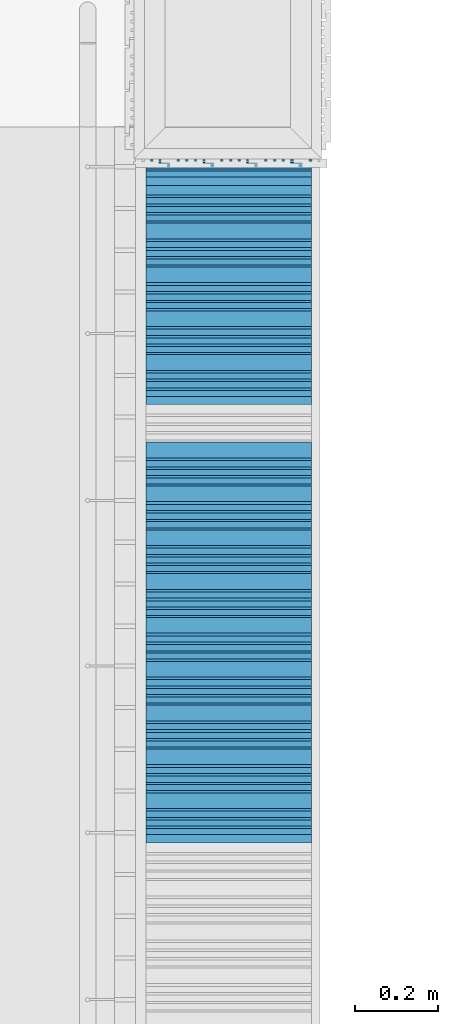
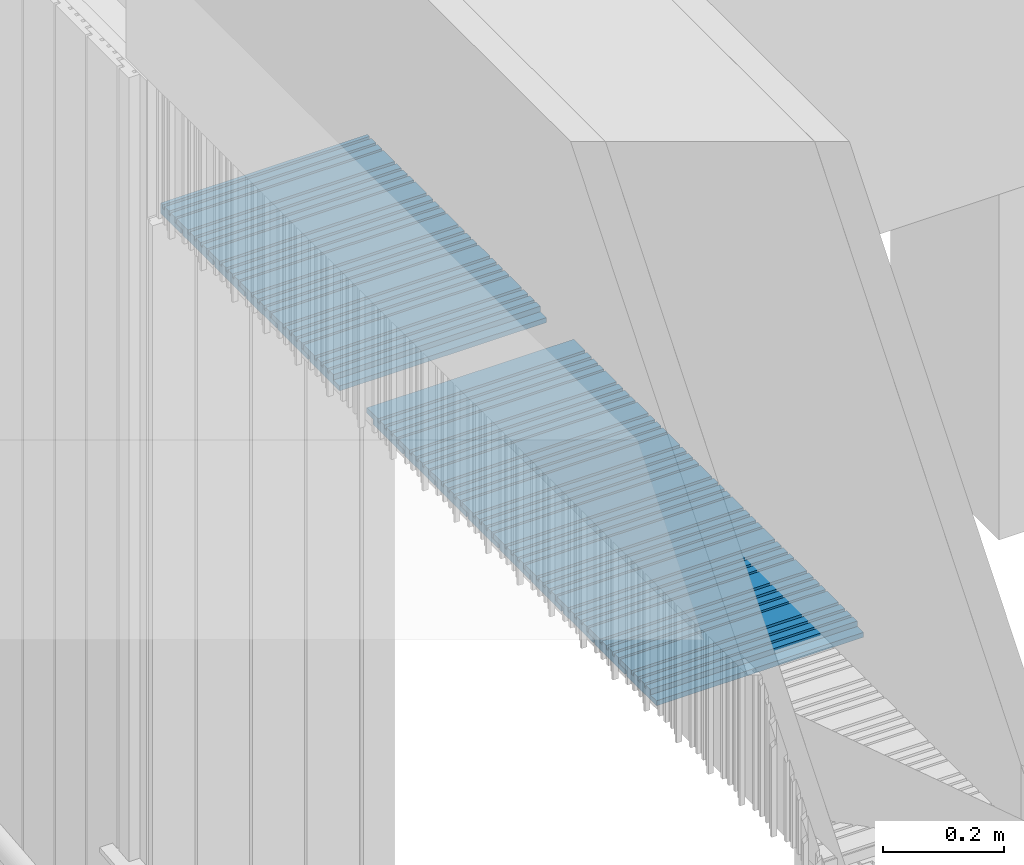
# One storey, part 59 of 418: 15 building element parts, 1 element without a shape of its own.
"""IFC2X3 building model written with IfcOpenShell, lengths in millimetres."""

from ifc_helpers import new_model, entity, si_unit, converted_unit, derived_unit, money_unit, direction, frame, origin_with_axes, place, context, subcontext, project, spatial, polyline, outline, extrude, material, type_object, element, aggregate, save


model = new_model("IFC2X3")

# Units and contexts
model_context = context("Model", 3, precision=0.01, world=origin_with_axes(), true_north=direction((0.0, 1.0)))
body_context = subcontext(model_context, "Body", "Model", "MODEL_VIEW")
ifc_project = project(units=[si_unit("LENGTHUNIT", "METRE", prefix="MILLI"), si_unit("AREAUNIT", "SQUARE_METRE"), si_unit("VOLUMEUNIT", "CUBIC_METRE"), converted_unit("PLANEANGLEUNIT", "DEGREE", entity("IfcPlaneAngleMeasure", 0.0174532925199), si_unit("PLANEANGLEUNIT", "RADIAN"), dimensions=[0, 0, 0, 0, 0, 0, 0]), si_unit("SOLIDANGLEUNIT", "STERADIAN"), money_unit("EUR"), converted_unit("TIMEUNIT", "Year", entity("IfcTimeMeasure", 31556926.0), si_unit("TIMEUNIT", "SECOND"), dimensions=[0, 0, 1, 0, 0, 0, 0]), si_unit("MASSUNIT", "GRAM", prefix="KILO"), si_unit("THERMODYNAMICTEMPERATUREUNIT", "DEGREE_CELSIUS"), si_unit("LUMINOUSINTENSITYUNIT", "LUMEN"), si_unit("ENERGYUNIT", "JOULE", prefix="MEGA"), derived_unit("THERMALCONDUCTANCEUNIT", [(si_unit("POWERUNIT", "WATT"), 1), (si_unit("LENGTHUNIT", "METRE"), -1), (si_unit("THERMODYNAMICTEMPERATUREUNIT", "KELVIN"), -1)]), derived_unit("SPECIFICHEATCAPACITYUNIT", [(si_unit("ENERGYUNIT", "JOULE"), 1), (si_unit("MASSUNIT", "GRAM", prefix="KILO"), -1), (si_unit("THERMODYNAMICTEMPERATUREUNIT", "KELVIN"), -1)]), derived_unit("MASSDENSITYUNIT", [(si_unit("MASSUNIT", "GRAM", prefix="KILO"), 1), (si_unit("VOLUMEUNIT", "CUBIC_METRE"), -1)])], contexts=[model_context])

# Site, building, storey
site_placement = place(None, origin_with_axes())
site = spatial("IfcSite", under=ifc_project, at=site_placement, Name="Paldiski mnt 245/1, Tallinn, Harjumaa", CompositionType="COMPLEX")
building_placement = place(site_placement, origin_with_axes())
building = spatial("IfcBuilding", under=site, at=building_placement, Name="RKAS Hoone üldnimetus (kasutust iseloomustav) -> IFC Project Manager -> SOLIBRI", CompositionType="ELEMENT")
storey_placement = place(building_placement, origin_with_axes())
storey = spatial("IfcBuildingStorey", under=building, at=storey_placement, Name="Esimene korrus", CompositionType="ELEMENT", Elevation=0.0)

# Proxy, building element parts
building_element_proxy_type = type_object("IfcBuildingElementProxyType", Name="Laudis ava ülemine serv_01 2200 x 21", PredefinedType="NOTDEFINED")
proxy_placement = place(storey_placement, frame((-38766.0, -15302.0843015, 2280.0), z_axis=(0.0, 0.0, 1.0), x_axis=(1.0, 0.0, 0.0)))
proxy = element("IfcBuildingElementProxy", 1, at=proxy_placement, inside=storey, type_object=building_element_proxy_type, Name="Varikatus")
ifc_material = material(Name="Laudis 5072 Honka 45 horisontaalne")
building_element_part_1_placement = place(proxy_placement, origin_with_axes())
building_element_part_1 = element("IfcBuildingElementPart", 2, at=building_element_part_1_placement, material=ifc_material, Name="Laudis 5072 Honka 45 horisontaalne", context=body_context, shape_type="SweptSolid", body=[
    extrude(outline(polyline([(73.1789257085, 0.0), (173.178925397, 0.0), (173.178925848, 9.99999952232), (153.178926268, 10.0000004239), (153.178925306, 21.0000001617), (138.602738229, 21.0000005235), (138.602737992, 14.000001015), (132.96206958, 14.0000003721), (132.962068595, 21.0000008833), (118.133576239, 20.9999999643), (118.133576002, 14.0000004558), (112.006635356, 14.0000000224), (112.006635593, 20.9999995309), (97.0675184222, 20.9999996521), (97.0675181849, 14.0000001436), (90.7050211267, 14.0000004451), (90.7050201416, 21.0000009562), (53.1789256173, 20.9999999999), (53.1789252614, 10.5000007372), (73.1789258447, 10.5000010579), (73.1789257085, 0.0)])), frame((0.0, 0.0, 0.0), z_axis=(-1.0, 0.0, 0.0), x_axis=(0.0, -1.0, 0.0)), (0.0, 0.0, -1.0), 396.0),
])
building_element_part_2_placement = place(proxy_placement, origin_with_axes())
building_element_part_2 = element("IfcBuildingElementPart", 3, at=building_element_part_2_placement, material=ifc_material, Name="Laudis 5072 Honka 45 horisontaalne", context=body_context, shape_type="SweptSolid", body=[
    extrude(outline(polyline([(0.0, 0.0), (68.1789252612, 0.0), (68.178925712, 9.99999952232), (48.1789261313, 10.0000004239), (48.17892517, 21.0000001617), (33.6027380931, 21.0000005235), (33.6027378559, 14.000001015), (27.9620694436, 14.0000003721), (27.9620684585, 21.0000008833), (13.1335761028, 20.9999999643), (13.1335758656, 14.0000004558), (7.00663521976, 14.0000000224), (7.006635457, 20.9999995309), (0.0, 20.9999995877), (0.0, 0.0)])), frame((0.0, 0.0, 0.0), z_axis=(-1.0, 0.0, 0.0), x_axis=(0.0, -1.0, 0.0)), (0.0, 0.0, -1.0), 396.0),
])
building_element_part_3_placement = place(proxy_placement, origin_with_axes())
building_element_part_3 = element("IfcBuildingElementPart", 4, at=building_element_part_3_placement, material=ifc_material, Name="Laudis 5072 Honka 45 horisontaalne", context=body_context, shape_type="SweptSolid", body=[
    extrude(outline(polyline([(178.178925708, 0.0), (278.178925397, 0.0), (278.178925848, 9.99999952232), (258.178926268, 10.0000004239), (258.178925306, 21.0000001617), (243.602738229, 21.0000005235), (243.602737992, 14.000001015), (237.96206958, 14.0000003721), (237.962068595, 21.0000008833), (223.133576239, 20.9999999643), (223.133576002, 14.0000004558), (217.006635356, 14.0000000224), (217.006635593, 20.9999995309), (202.067518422, 20.9999996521), (202.067518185, 14.0000001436), (195.705021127, 14.0000004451), (195.705020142, 21.0000009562), (158.178925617, 20.9999999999), (158.178925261, 10.5000007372), (178.178925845, 10.5000010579), (178.178925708, 0.0)])), frame((0.0, 0.0, 0.0), z_axis=(-1.0, 0.0, 0.0), x_axis=(0.0, -1.0, 0.0)), (0.0, 0.0, -1.0), 396.0),
])
building_element_part_4_placement = place(proxy_placement, origin_with_axes())
building_element_part_4 = element("IfcBuildingElementPart", 5, at=building_element_part_4_placement, material=ifc_material, Name="Laudis 5072 Honka 45 horisontaalne", context=body_context, shape_type="SweptSolid", body=[
    extrude(outline(polyline([(283.178925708, 0.0), (383.178925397, 0.0), (383.178925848, 9.99999952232), (363.178926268, 10.0000004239), (363.178925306, 21.0000001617), (348.602738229, 21.0000005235), (348.602737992, 14.000001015), (342.96206958, 14.0000003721), (342.962068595, 21.0000008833), (328.133576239, 20.9999999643), (328.133576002, 14.0000004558), (322.006635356, 14.0000000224), (322.006635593, 20.9999995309), (307.067518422, 20.9999996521), (307.067518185, 14.0000001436), (300.705021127, 14.0000004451), (300.705020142, 21.0000009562), (263.178925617, 20.9999999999), (263.178925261, 10.5000007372), (283.178925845, 10.5000010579), (283.178925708, 0.0)])), frame((0.0, 0.0, 0.0), z_axis=(-1.0, 0.0, 0.0), x_axis=(0.0, -1.0, 0.0)), (0.0, 0.0, -1.0), 396.0),
])
building_element_part_5_placement = place(proxy_placement, origin_with_axes())
building_element_part_5 = element("IfcBuildingElementPart", 6, at=building_element_part_5_placement, material=ifc_material, Name="Laudis 5072 Honka 45 horisontaalne", context=body_context, shape_type="SweptSolid", body=[
    extrude(outline(polyline([(388.178925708, 0.0), (488.178925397, 0.0), (488.178925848, 9.99999952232), (468.178926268, 10.0000004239), (468.178925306, 21.0000001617), (453.602738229, 21.0000005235), (453.602737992, 14.000001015), (447.96206958, 14.0000003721), (447.962068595, 21.0000008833), (433.133576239, 20.9999999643), (433.133576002, 14.0000004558), (427.006635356, 14.0000000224), (427.006635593, 20.9999995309), (412.067518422, 20.9999996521), (412.067518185, 14.0000001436), (405.705021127, 14.0000004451), (405.705020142, 21.0000009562), (368.178925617, 20.9999999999), (368.178925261, 10.5000007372), (388.178925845, 10.5000010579), (388.178925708, 0.0)])), frame((0.0, 0.0, 0.0), z_axis=(-1.0, 0.0, 0.0), x_axis=(0.0, -1.0, 0.0)), (0.0, 0.0, -1.0), 396.0),
])
building_element_part_6_placement = place(proxy_placement, origin_with_axes())
building_element_part_6 = element("IfcBuildingElementPart", 7, at=building_element_part_6_placement, material=ifc_material, Name="Laudis 5072 Honka 45 horisontaalne", context=body_context, shape_type="SweptSolid", body=[
    extrude(outline(polyline([(493.178925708, 0.0), (593.178925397, 0.0), (593.178925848, 9.99999952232), (573.178926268, 10.0000004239), (573.178925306, 21.0000001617), (558.602738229, 21.0000005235), (558.602737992, 14.000001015), (552.96206958, 14.0000003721), (552.962068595, 21.0000008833), (538.133576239, 20.9999999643), (538.133576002, 14.0000004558), (532.006635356, 14.0000000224), (532.006635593, 20.9999995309), (517.067518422, 20.9999996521), (517.067518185, 14.0000001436), (510.705021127, 14.0000004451), (510.705020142, 21.0000009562), (473.178925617, 20.9999999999), (473.178925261, 10.5000007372), (493.178925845, 10.5000010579), (493.178925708, 0.0)])), frame((0.0, 0.0, 0.0), z_axis=(-1.0, 0.0, 0.0), x_axis=(0.0, -1.0, 0.0)), (0.0, 0.0, -1.0), 396.0),
])
building_element_part_7_placement = place(proxy_placement, origin_with_axes())
building_element_part_7 = element("IfcBuildingElementPart", 8, at=building_element_part_7_placement, material=ifc_material, Name="Laudis 5072 Honka 45 horisontaalne", context=body_context, shape_type="SweptSolid", body=[
    extrude(outline(polyline([(703.178925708, 0.0), (803.178925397, 0.0), (803.178925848, 9.99999952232), (783.178926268, 10.0000004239), (783.178925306, 21.0000001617), (768.602738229, 21.0000005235), (768.602737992, 14.000001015), (762.96206958, 14.0000003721), (762.962068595, 21.0000008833), (748.133576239, 20.9999999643), (748.133576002, 14.0000004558), (742.006635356, 14.0000000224), (742.006635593, 20.9999995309), (727.067518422, 20.9999996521), (727.067518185, 14.0000001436), (720.705021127, 14.0000004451), (720.705020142, 21.0000009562), (683.178925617, 20.9999999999), (683.178925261, 10.5000007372), (703.178925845, 10.5000010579), (703.178925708, 0.0)])), frame((0.0, 0.0, 0.0), z_axis=(-1.0, 0.0, 0.0), x_axis=(0.0, -1.0, 0.0)), (0.0, 0.0, -1.0), 396.0),
])
building_element_part_8_placement = place(proxy_placement, origin_with_axes())
building_element_part_8 = element("IfcBuildingElementPart", 9, at=building_element_part_8_placement, material=ifc_material, Name="Laudis 5072 Honka 45 horisontaalne", context=body_context, shape_type="SweptSolid", body=[
    extrude(outline(polyline([(808.178925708, 0.0), (908.178925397, 0.0), (908.178925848, 9.99999952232), (888.178926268, 10.0000004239), (888.178925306, 21.0000001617), (873.602738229, 21.0000005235), (873.602737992, 14.000001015), (867.96206958, 14.0000003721), (867.962068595, 21.0000008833), (853.133576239, 20.9999999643), (853.133576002, 14.0000004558), (847.006635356, 14.0000000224), (847.006635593, 20.9999995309), (832.067518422, 20.9999996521), (832.067518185, 14.0000001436), (825.705021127, 14.0000004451), (825.705020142, 21.0000009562), (788.178925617, 20.9999999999), (788.178925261, 10.5000007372), (808.178925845, 10.5000010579), (808.178925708, 0.0)])), frame((0.0, 0.0, 0.0), z_axis=(-1.0, 0.0, 0.0), x_axis=(0.0, -1.0, 0.0)), (0.0, 0.0, -1.0), 396.0),
])
building_element_part_9_placement = place(proxy_placement, origin_with_axes())
building_element_part_9 = element("IfcBuildingElementPart", 10, at=building_element_part_9_placement, material=ifc_material, Name="Laudis 5072 Honka 45 horisontaalne", context=body_context, shape_type="SweptSolid", body=[
    extrude(outline(polyline([(913.178925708, 0.0), (1013.1789254, 0.0), (1013.17892585, 9.99999952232), (993.178926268, 10.0000004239), (993.178925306, 21.0000001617), (978.602738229, 21.0000005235), (978.602737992, 14.000001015), (972.96206958, 14.0000003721), (972.962068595, 21.0000008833), (958.133576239, 20.9999999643), (958.133576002, 14.0000004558), (952.006635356, 14.0000000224), (952.006635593, 20.9999995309), (937.067518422, 20.9999996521), (937.067518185, 14.0000001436), (930.705021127, 14.0000004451), (930.705020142, 21.0000009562), (893.178925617, 20.9999999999), (893.178925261, 10.5000007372), (913.178925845, 10.5000010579), (913.178925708, 0.0)])), frame((0.0, 0.0, 0.0), z_axis=(-1.0, 0.0, 0.0), x_axis=(0.0, -1.0, 0.0)), (0.0, 0.0, -1.0), 396.0),
])
building_element_part_10_placement = place(proxy_placement, origin_with_axes())
building_element_part_10 = element("IfcBuildingElementPart", 11, at=building_element_part_10_placement, material=ifc_material, Name="Laudis 5072 Honka 45 horisontaalne", context=body_context, shape_type="SweptSolid", body=[
    extrude(outline(polyline([(1018.17892571, 0.0), (1118.1789254, 0.0), (1118.17892585, 9.99999952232), (1098.17892627, 10.0000004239), (1098.17892531, 21.0000001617), (1083.60273823, 21.0000005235), (1083.60273799, 14.000001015), (1077.96206958, 14.0000003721), (1077.96206859, 21.0000008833), (1063.13357624, 20.9999999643), (1063.133576, 14.0000004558), (1057.00663536, 14.0000000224), (1057.00663559, 20.9999995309), (1042.06751842, 20.9999996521), (1042.06751818, 14.0000001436), (1035.70502113, 14.0000004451), (1035.70502014, 21.0000009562), (998.178925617, 20.9999999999), (998.178925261, 10.5000007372), (1018.17892584, 10.5000010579), (1018.17892571, 0.0)])), frame((0.0, 0.0, 0.0), z_axis=(-1.0, 0.0, 0.0), x_axis=(0.0, -1.0, 0.0)), (0.0, 0.0, -1.0), 396.0),
])
building_element_part_11_placement = place(proxy_placement, origin_with_axes())
building_element_part_11 = element("IfcBuildingElementPart", 12, at=building_element_part_11_placement, material=ifc_material, Name="Laudis 5072 Honka 45 horisontaalne", context=body_context, shape_type="SweptSolid", body=[
    extrude(outline(polyline([(1123.17892571, 0.0), (1223.1789254, 0.0), (1223.17892585, 9.99999952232), (1203.17892627, 10.0000004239), (1203.17892531, 21.0000001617), (1188.60273823, 21.0000005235), (1188.60273799, 14.000001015), (1182.96206958, 14.0000003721), (1182.96206859, 21.0000008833), (1168.13357624, 20.9999999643), (1168.133576, 14.0000004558), (1162.00663536, 14.0000000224), (1162.00663559, 20.9999995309), (1147.06751842, 20.9999996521), (1147.06751818, 14.0000001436), (1140.70502113, 14.0000004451), (1140.70502014, 21.0000009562), (1103.17892562, 20.9999999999), (1103.17892526, 10.5000007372), (1123.17892584, 10.5000010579), (1123.17892571, 0.0)])), frame((0.0, 0.0, 0.0), z_axis=(-1.0, 0.0, 0.0), x_axis=(0.0, -1.0, 0.0)), (0.0, 0.0, -1.0), 396.0),
])
building_element_part_12_placement = place(proxy_placement, origin_with_axes())
building_element_part_12 = element("IfcBuildingElementPart", 13, at=building_element_part_12_placement, material=ifc_material, Name="Laudis 5072 Honka 45 horisontaalne", context=body_context, shape_type="SweptSolid", body=[
    extrude(outline(polyline([(1228.17892571, 0.0), (1328.1789254, 0.0), (1328.17892585, 9.99999952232), (1308.17892627, 10.0000004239), (1308.17892531, 21.0000001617), (1293.60273823, 21.0000005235), (1293.60273799, 14.000001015), (1287.96206958, 14.0000003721), (1287.96206859, 21.0000008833), (1273.13357624, 20.9999999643), (1273.133576, 14.0000004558), (1267.00663536, 14.0000000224), (1267.00663559, 20.9999995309), (1252.06751842, 20.9999996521), (1252.06751818, 14.0000001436), (1245.70502113, 14.0000004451), (1245.70502014, 21.0000009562), (1208.17892562, 20.9999999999), (1208.17892526, 10.5000007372), (1228.17892584, 10.5000010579), (1228.17892571, 0.0)])), frame((0.0, 0.0, 0.0), z_axis=(-1.0, 0.0, 0.0), x_axis=(0.0, -1.0, 0.0)), (0.0, 0.0, -1.0), 396.0),
])
building_element_part_13_placement = place(proxy_placement, origin_with_axes())
building_element_part_13 = element("IfcBuildingElementPart", 14, at=building_element_part_13_placement, material=ifc_material, Name="Laudis 5072 Honka 45 horisontaalne", context=body_context, shape_type="SweptSolid", body=[
    extrude(outline(polyline([(1333.17892571, 0.0), (1433.1789254, 0.0), (1433.17892585, 9.99999952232), (1413.17892627, 10.0000004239), (1413.17892531, 21.0000001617), (1398.60273823, 21.0000005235), (1398.60273799, 14.000001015), (1392.96206958, 14.0000003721), (1392.96206859, 21.0000008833), (1378.13357624, 20.9999999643), (1378.133576, 14.0000004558), (1372.00663536, 14.0000000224), (1372.00663559, 20.9999995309), (1357.06751842, 20.9999996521), (1357.06751818, 14.0000001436), (1350.70502113, 14.0000004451), (1350.70502014, 21.0000009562), (1313.17892562, 20.9999999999), (1313.17892526, 10.5000007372), (1333.17892584, 10.5000010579), (1333.17892571, 0.0)])), frame((0.0, 0.0, 0.0), z_axis=(-1.0, 0.0, 0.0), x_axis=(0.0, -1.0, 0.0)), (0.0, 0.0, -1.0), 396.0),
])
building_element_part_14_placement = place(proxy_placement, origin_with_axes())
building_element_part_14 = element("IfcBuildingElementPart", 15, at=building_element_part_14_placement, material=ifc_material, Name="Laudis 5072 Honka 45 horisontaalne", context=body_context, shape_type="SweptSolid", body=[
    extrude(outline(polyline([(1438.17892571, 0.0), (1538.1789254, 0.0), (1538.17892585, 9.99999952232), (1518.17892627, 10.0000004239), (1518.17892531, 21.0000001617), (1503.60273823, 21.0000005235), (1503.60273799, 14.000001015), (1497.96206958, 14.0000003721), (1497.96206859, 21.0000008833), (1483.13357624, 20.9999999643), (1483.133576, 14.0000004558), (1477.00663536, 14.0000000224), (1477.00663559, 20.9999995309), (1462.06751842, 20.9999996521), (1462.06751818, 14.0000001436), (1455.70502113, 14.0000004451), (1455.70502014, 21.0000009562), (1418.17892562, 20.9999999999), (1418.17892526, 10.5000007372), (1438.17892584, 10.5000010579), (1438.17892571, 0.0)])), frame((0.0, 0.0, 0.0), z_axis=(-1.0, 0.0, 0.0), x_axis=(0.0, -1.0, 0.0)), (0.0, 0.0, -1.0), 396.0),
])
building_element_part_15_placement = place(proxy_placement, origin_with_axes())
building_element_part_15 = element("IfcBuildingElementPart", 16, at=building_element_part_15_placement, material=ifc_material, Name="Laudis 5072 Honka 45 horisontaalne", context=body_context, shape_type="SweptSolid", body=[
    extrude(outline(polyline([(1543.17892571, 0.0), (1643.1789254, 0.0), (1643.17892585, 9.99999952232), (1623.17892627, 10.0000004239), (1623.17892531, 21.0000001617), (1608.60273823, 21.0000005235), (1608.60273799, 14.000001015), (1602.96206958, 14.0000003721), (1602.96206859, 21.0000008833), (1588.13357624, 20.9999999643), (1588.133576, 14.0000004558), (1582.00663536, 14.0000000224), (1582.00663559, 20.9999995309), (1567.06751842, 20.9999996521), (1567.06751818, 14.0000001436), (1560.70502113, 14.0000004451), (1560.70502014, 21.0000009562), (1523.17892562, 20.9999999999), (1523.17892526, 10.5000007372), (1543.17892584, 10.5000010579), (1543.17892571, 0.0)])), frame((0.0, 0.0, 0.0), z_axis=(-1.0, 0.0, 0.0), x_axis=(0.0, -1.0, 0.0)), (0.0, 0.0, -1.0), 396.0),
])
aggregate(proxy, [building_element_part_1, building_element_part_2, building_element_part_3, building_element_part_4, building_element_part_5, building_element_part_6, building_element_part_7, building_element_part_8, building_element_part_9, building_element_part_10, building_element_part_11, building_element_part_12, building_element_part_13, building_element_part_14, building_element_part_15])

save(model, "model.ifc")
